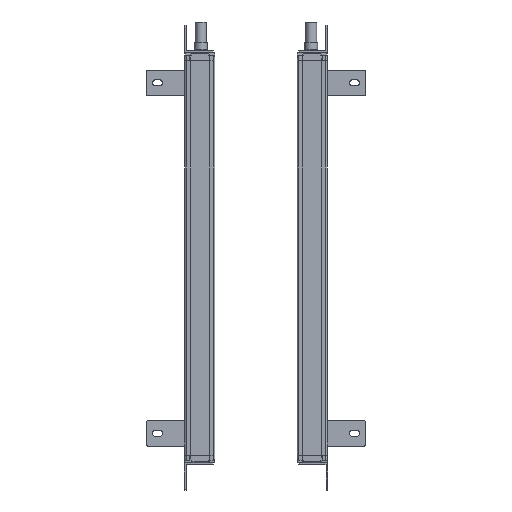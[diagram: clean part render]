
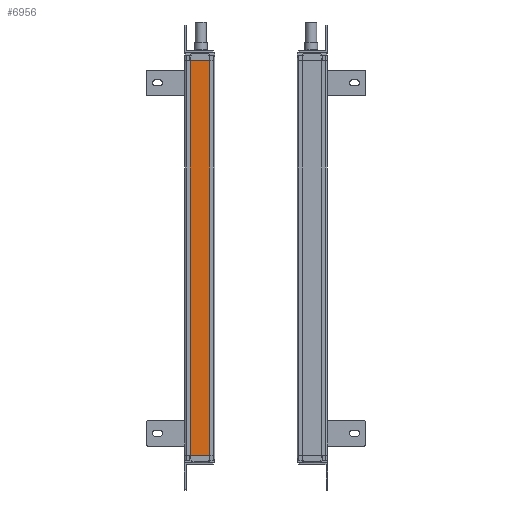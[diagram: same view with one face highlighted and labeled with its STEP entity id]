
A CAD part, left-side view. The second image highlights one B-rep face of the part: STEP entity #6956.
In plain terms, the highlighted planar face has unit normal (-1, 0, 0).
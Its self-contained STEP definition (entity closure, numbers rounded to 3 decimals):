
#953=FACE_OUTER_BOUND('',#9034,.T.);
#2188=LINE('',#33710,#4326);
#2290=LINE('',#34050,#4428);
#2291=LINE('',#34052,#4429);
#2292=LINE('',#34054,#4430);
#4326=VECTOR('',#26897,1.);
#4428=VECTOR('',#27185,1.);
#4429=VECTOR('',#27188,1.);
#4430=VECTOR('',#27189,1.);
#6178=PLANE('',#23723);
#6956=ADVANCED_FACE('',(#953),#6178,.T.);
#9034=EDGE_LOOP('',(#11681,#11682,#11683,#11684));
#11681=ORIENTED_EDGE('',*,*,#19828,.F.);
#11682=ORIENTED_EDGE('',*,*,#19829,.T.);
#11683=ORIENTED_EDGE('',*,*,#19830,.T.);
#11684=ORIENTED_EDGE('',*,*,#19658,.F.);
#17203=VERTEX_POINT('',#33709);
#17204=VERTEX_POINT('',#33711);
#17348=VERTEX_POINT('',#34049);
#17349=VERTEX_POINT('',#34053);
#19658=EDGE_CURVE('',#17203,#17204,#2188,.T.);
#19828=EDGE_CURVE('',#17348,#17203,#2290,.T.);
#19829=EDGE_CURVE('',#17348,#17349,#2291,.T.);
#19830=EDGE_CURVE('',#17349,#17204,#2292,.T.);
#23723=AXIS2_PLACEMENT_3D('',#34055,#27190,#27191);
#26897=DIRECTION('',(0.,-1.,0.));
#27185=DIRECTION('',(0.,0.,1.));
#27188=DIRECTION('',(0.,-1.,0.));
#27189=DIRECTION('',(0.,0.,1.));
#27190=DIRECTION('',(-1.,0.,0.));
#27191=DIRECTION('',(0.,-1.,0.));
#33709=CARTESIAN_POINT('',(233.846,104.141,31.645));
#33710=CARTESIAN_POINT('',(233.846,81.141,31.645));
#33711=CARTESIAN_POINT('',(233.846,81.141,31.645));
#34049=CARTESIAN_POINT('',(233.846,104.141,-433.355));
#34050=CARTESIAN_POINT('',(233.846,104.141,-155.355));
#34052=CARTESIAN_POINT('',(233.846,81.141,-433.355));
#34053=CARTESIAN_POINT('',(233.846,81.141,-433.355));
#34054=CARTESIAN_POINT('',(233.846,81.141,-155.355));
#34055=CARTESIAN_POINT('',(233.846,81.141,-50.355));
